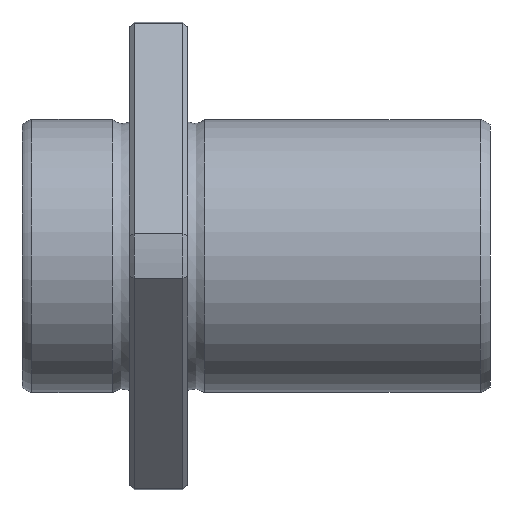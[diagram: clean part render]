
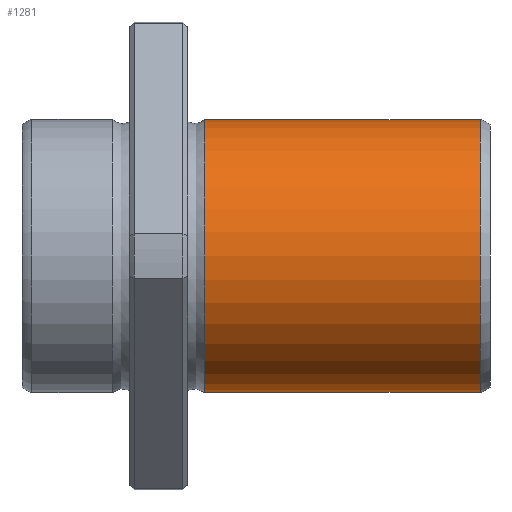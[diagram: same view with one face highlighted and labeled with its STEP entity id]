
A CAD part, front view. The second image highlights one B-rep face of the part: STEP entity #1281.
In plain terms, the highlighted cylindrical face has radius 14 mm (diameter 28 mm), a full revolution.
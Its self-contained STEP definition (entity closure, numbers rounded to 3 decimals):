
#1247=CARTESIAN_POINT('',(46.999,0.0,14.));
#1248=VERTEX_POINT('',#1247);
#1249=CARTESIAN_POINT('',(46.999,0.0,0.0));
#1250=DIRECTION('',(-1.0,0.0,0.0));
#1251=DIRECTION('',(0.0,0.0,1.0));
#1252=AXIS2_PLACEMENT_3D('',#1249,#1250,#1251);
#1253=CIRCLE('',#1252,14.);
#1254=EDGE_CURVE('',#1248,#1248,#1253,.T.);
#1262=CARTESIAN_POINT('',(32.859,0.0,0.0));
#1263=DIRECTION('',(-1.0,0.0,0.0));
#1264=DIRECTION('',(0.0,0.0,1.0));
#1265=AXIS2_PLACEMENT_3D('',#1262,#1263,#1264);
#1266=CYLINDRICAL_SURFACE('',#1265,14.);
#1267=CARTESIAN_POINT('',(18.72,0.0,14.0));
#1268=VERTEX_POINT('',#1267);
#1269=CARTESIAN_POINT('',(18.72,0.0,0.0));
#1270=DIRECTION('',(-1.0,0.0,0.0));
#1271=DIRECTION('',(0.0,0.0,1.0));
#1272=AXIS2_PLACEMENT_3D('',#1269,#1270,#1271);
#1273=CIRCLE('',#1272,14.0);
#1274=EDGE_CURVE('',#1268,#1268,#1273,.T.);
#1275=ORIENTED_EDGE('',*,*,#1274,.F.);
#1276=EDGE_LOOP('',(#1275));
#1277=FACE_OUTER_BOUND('',#1276,.T.);
#1278=ORIENTED_EDGE('',*,*,#1254,.T.);
#1279=EDGE_LOOP('',(#1278));
#1280=FACE_BOUND('',#1279,.T.);
#1281=ADVANCED_FACE('',(#1277,#1280),#1266,.T.);
